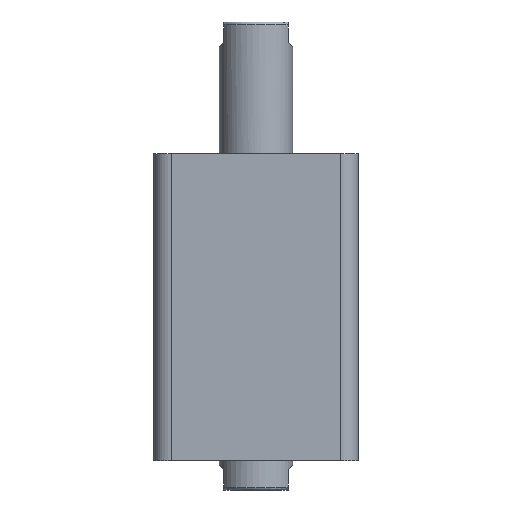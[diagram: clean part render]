
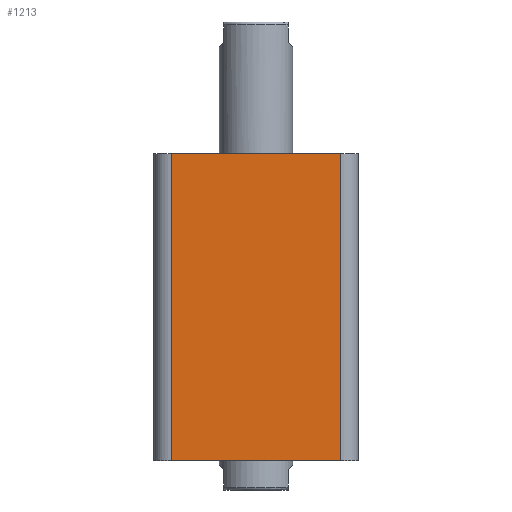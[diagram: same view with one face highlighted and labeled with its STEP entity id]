
A CAD part, front view. The second image highlights one B-rep face of the part: STEP entity #1213.
In plain terms, the highlighted planar face has unit normal (0, -1, 0).
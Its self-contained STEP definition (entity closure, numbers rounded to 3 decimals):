
#67 = VERTEX_POINT ( 'NONE', #3164 ) ;
#145 = VERTEX_POINT ( 'NONE', #1329 ) ;
#146 = VERTEX_POINT ( 'NONE', #1322 ) ;
#150 = VERTEX_POINT ( 'NONE', #1340 ) ;
#335 = FACE_OUTER_BOUND ( 'NONE', #3234, .T. ) ;
#343 = ORIENTED_EDGE ( 'NONE', *, *, #2291, .T. ) ;
#344 = ORIENTED_EDGE ( 'NONE', *, *, #2292, .T. ) ;
#368 = LINE ( 'NONE', #2561, #371 ) ;
#370 = LINE ( 'NONE', #2575, #373 ) ;
#371 = VECTOR ( 'NONE', #2568, 1000. ) ;
#373 = VECTOR ( 'NONE', #2576, 1000. ) ;
#674 = AXIS2_PLACEMENT_3D ( 'NONE', #1951, #1960, #1962 ) ;
#1073 = LINE ( 'NONE', #1585, #1076 ) ;
#1076 = VECTOR ( 'NONE', #1586, 1000. ) ;
#1091 = LINE ( 'NONE', #2416, #1095 ) ;
#1095 = VECTOR ( 'NONE', #2415, 1000. ) ;
#1213 = ADVANCED_FACE ( 'NONE', ( #335 ), #1956, .F. ) ;
#1322 = CARTESIAN_POINT ( 'NONE',  ( -29., -35., 0. ) ) ;
#1329 = CARTESIAN_POINT ( 'NONE',  ( 29., -35., 0. ) ) ;
#1340 = CARTESIAN_POINT ( 'NONE',  ( 29., -35., 105. ) ) ;
#1585 = CARTESIAN_POINT ( 'NONE',  ( -29., -35., 105. ) ) ;
#1586 = DIRECTION ( 'NONE',  ( 0., 0., -1. ) ) ;
#1951 = CARTESIAN_POINT ( 'NONE',  ( -35., -35., 105. ) ) ;
#1956 = PLANE ( 'NONE',  #674 ) ;
#1960 = DIRECTION ( 'NONE',  ( 0., 1., 0. ) ) ;
#1962 = DIRECTION ( 'NONE',  ( 0., 0., 1. ) ) ;
#2217 = EDGE_CURVE ( 'NONE', #67, #146, #1073, .T. ) ;
#2230 = EDGE_CURVE ( 'NONE', #67, #150, #1091, .T. ) ;
#2291 = EDGE_CURVE ( 'NONE', #146, #145, #368, .T. ) ;
#2292 = EDGE_CURVE ( 'NONE', #145, #150, #370, .T. ) ;
#2415 = DIRECTION ( 'NONE',  ( 1., 0., 0. ) ) ;
#2416 = CARTESIAN_POINT ( 'NONE',  ( -35., -35., 105. ) ) ;
#2561 = CARTESIAN_POINT ( 'NONE',  ( -35., -35., 0. ) ) ;
#2568 = DIRECTION ( 'NONE',  ( 1., 0., 0. ) ) ;
#2575 = CARTESIAN_POINT ( 'NONE',  ( 29., -35., 105. ) ) ;
#2576 = DIRECTION ( 'NONE',  ( 0., 0., 1. ) ) ;
#3140 = ORIENTED_EDGE ( 'NONE', *, *, #2230, .F. ) ;
#3141 = ORIENTED_EDGE ( 'NONE', *, *, #2217, .T. ) ;
#3164 = CARTESIAN_POINT ( 'NONE',  ( -29., -35., 105. ) ) ;
#3234 = EDGE_LOOP ( 'NONE', ( #3140, #3141, #343, #344 ) ) ;
